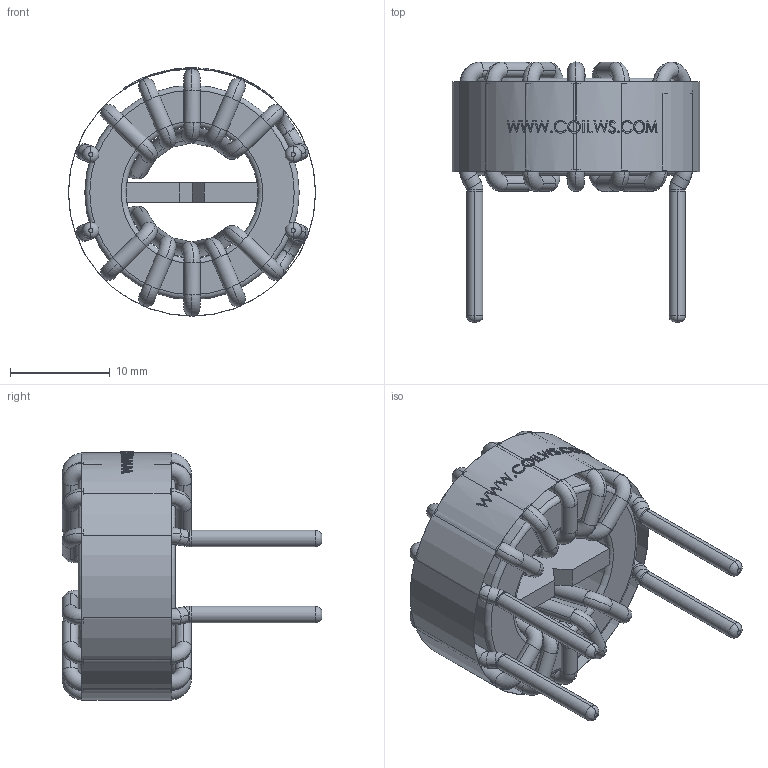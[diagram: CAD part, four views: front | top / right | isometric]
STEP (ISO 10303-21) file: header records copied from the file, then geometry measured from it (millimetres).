
FILE_DESCRIPTION (( 'STEP AP203' ), '1' );
FILE_NAME ('CM-650U-23A-SW.STEP', '2021-01-27T14:17:42', ( 'Windows User' ), ( '' ), 'SwSTEP 2.0', 'SolidWorks 2015', '' );
FILE_SCHEMA (( 'CONFIG_CONTROL_DESIGN' ));
Length unit declared in the file: inch
Products named in the file (4): CM-650U-23A-CORE-SW; CM-650U-23A-COIL-SW; CM-650U-23A-SW; CM-650U-23A-SPACER-SW
Assembly tree (3 placements, depth 2):
  CM-650U-23A-SW
    CM-650U-23A-CORE-SW
    CM-650U-23A-SPACER-SW
    CM-650U-23A-COIL-SW
Bounding box: 24.8 x 26.04 x 24.9 mm (x, y, z)
Volume: 3340.7 mm3; surface area: 5433.5 mm2
Topology: 9 solids, 9 shells, 425 faces, 1160 edges, 768 vertices
Faces by surface type: cylinder 142, torus 122, bspline 103, plane 58
Entity records: 18867 total; most frequent: CARTESIAN_POINT 8013, ORIENTED_EDGE 2320, DIRECTION 2134, EDGE_CURVE 1160, AXIS2_PLACEMENT_3D 986, VERTEX_POINT 768, CIRCLE 658, EDGE_LOOP 444
